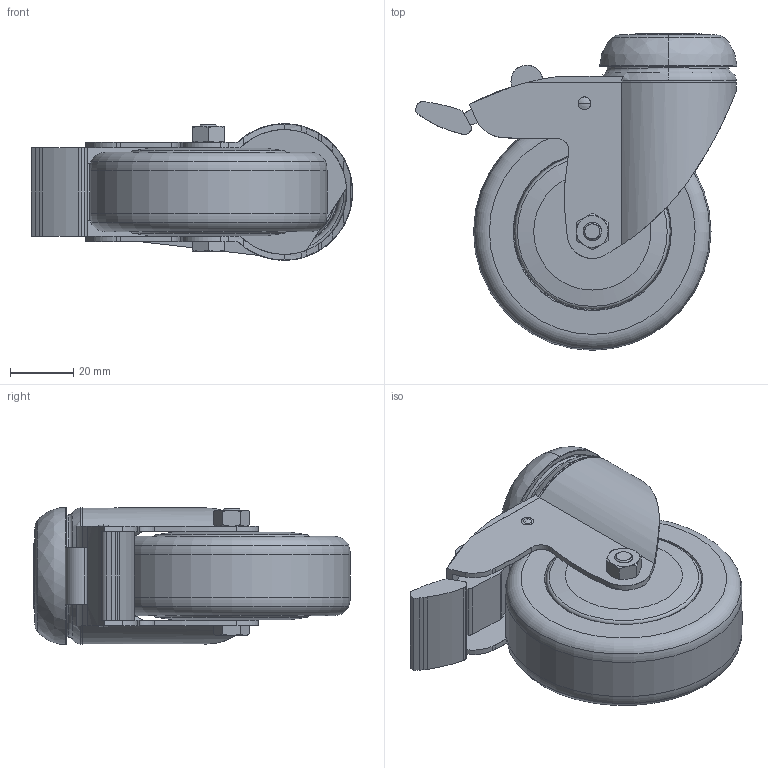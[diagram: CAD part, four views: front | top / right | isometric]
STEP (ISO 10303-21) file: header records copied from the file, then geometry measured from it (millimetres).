
FILE_DESCRIPTION((''),'2;1');
FILE_NAME('C:\Vault Klient\Projekt\100-1126.stp','2009-12-03T16:00:50',('Mathias'),(''),'Autodesk Inventor 2010','Autodesk Inventor 2010','');
FILE_SCHEMA(('CONFIG_CONTROL_DESIGN'));
Length unit declared in the file: millimetre
Products named in the file (1): 100-1126
Bounding box: 101.6 x 100 x 43.31 mm (x, y, z)
Volume: 108860.9 mm3; surface area: 45967.7 mm2
Topology: 1 solids, 227 shells, 268 faces, 1234 edges, 1200 vertices
Faces by surface type: cylinder 99, plane 80, torus 49, cone 32, bspline 8
Full cylindrical faces by diameter (mm): 6 x2, 8.6 x2, 12 x1, 16 x2, 45.102 x2, 50 x2, 75 x1
Entity records: 21784 total; most frequent: CARTESIAN_POINT 11144, DIRECTION 1862, ORIENTED_EDGE 1241, EDGE_CURVE 1192, VERTEX_POINT 1190, AXIS2_PLACEMENT_3D 712, VECTOR 438, LINE 438
